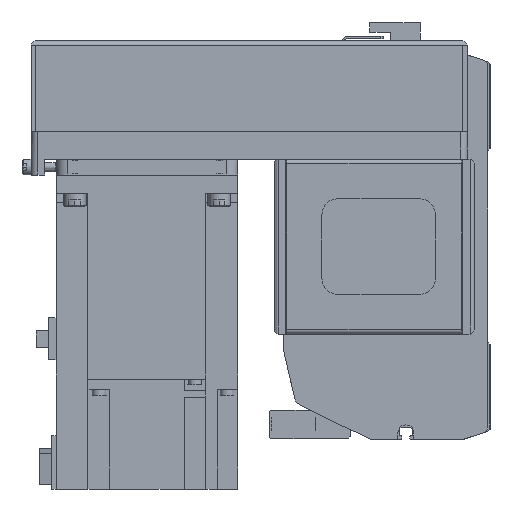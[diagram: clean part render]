
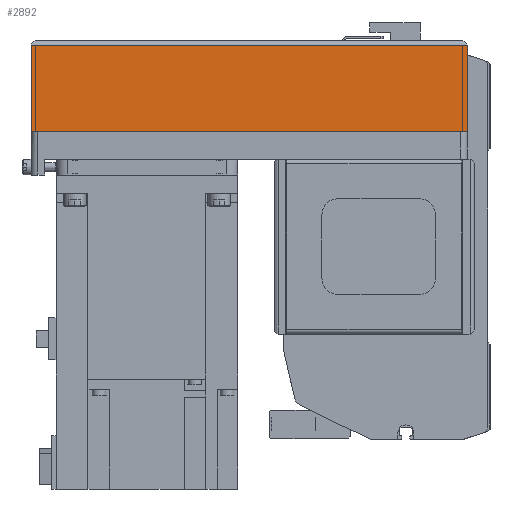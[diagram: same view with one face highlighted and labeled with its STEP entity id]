
A CAD part, left-side view. The second image highlights one B-rep face of the part: STEP entity #2892.
In plain terms, the highlighted planar face has unit normal (-1, 0, 0) as drawn and (0, 1, 0) by its records, which use the part's own axes.
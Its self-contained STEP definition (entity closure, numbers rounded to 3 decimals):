
#2892 = ADVANCED_FACE( '', ( #6080 ), #6081, .T. );
#6080 = FACE_OUTER_BOUND( '', #9450, .T. );
#6081 = PLANE( '', #9451 );
#9450 = EDGE_LOOP( '', ( #17558, #17559, #17560, #17561 ) );
#9451 = AXIS2_PLACEMENT_3D( '', #17562, #17563, #17564 );
#17558 = ORIENTED_EDGE( '', *, *, #20754, .F. );
#17559 = ORIENTED_EDGE( '', *, *, #22434, .F. );
#17560 = ORIENTED_EDGE( '', *, *, #21000, .T. );
#17561 = ORIENTED_EDGE( '', *, *, #19850, .T. );
#17562 = CARTESIAN_POINT( '', ( -192., 40., -50. ) );
#17563 = DIRECTION( '', ( 0., 1., 0. ) );
#17564 = DIRECTION( '', ( 0., 0., 1. ) );
#19850 = EDGE_CURVE( '', #23942, #23110, #23943, .T. );
#20754 = EDGE_CURVE( '', #25402, #23110, #25404, .T. );
#21000 = EDGE_CURVE( '', #23421, #23942, #25775, .T. );
#22434 = EDGE_CURVE( '', #23421, #25402, #27690, .T. );
#23110 = VERTEX_POINT( '', #28791 );
#23421 = VERTEX_POINT( '', #29262 );
#23942 = VERTEX_POINT( '', #29986 );
#23943 = LINE( '', #29987, #29988 );
#25402 = VERTEX_POINT( '', #32012 );
#25404 = LINE( '', #32015, #32016 );
#25775 = LINE( '', #32550, #32551 );
#27690 = LINE( '', #35480, #35481 );
#28791 = CARTESIAN_POINT( '', ( 0., 40., -12.1 ) );
#29262 = CARTESIAN_POINT( '', ( -192., 40., -50. ) );
#29986 = CARTESIAN_POINT( '', ( -192., 40., -12.1 ) );
#29987 = CARTESIAN_POINT( '', ( -192., 40., -12.1 ) );
#29988 = VECTOR( '', #36678, 1000. );
#32012 = CARTESIAN_POINT( '', ( 0., 40., -50. ) );
#32015 = CARTESIAN_POINT( '', ( 0., 40., -50. ) );
#32016 = VECTOR( '', #37842, 1000. );
#32550 = CARTESIAN_POINT( '', ( -192., 40., -50. ) );
#32551 = VECTOR( '', #38180, 1000. );
#35480 = CARTESIAN_POINT( '', ( -192., 40., -50. ) );
#35481 = VECTOR( '', #39694, 1000. );
#36678 = DIRECTION( '', ( 1., 0., 0. ) );
#37842 = DIRECTION( '', ( 0., 0., 1. ) );
#38180 = DIRECTION( '', ( 0., 0., 1. ) );
#39694 = DIRECTION( '', ( 1., 0., 0. ) );
